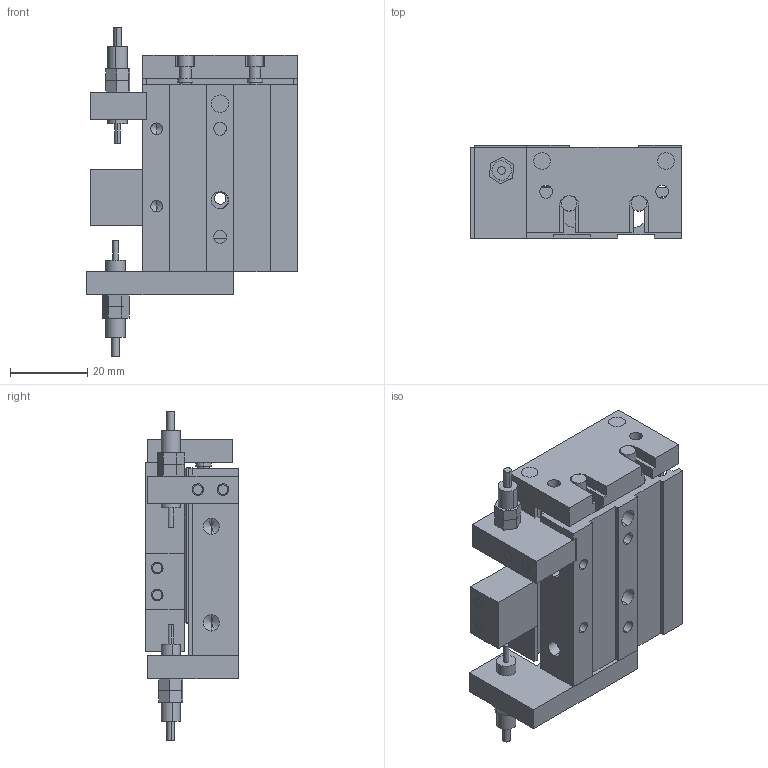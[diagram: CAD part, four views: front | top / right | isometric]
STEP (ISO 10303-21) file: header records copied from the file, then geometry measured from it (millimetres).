
FILE_DESCRIPTION (( 'STEP AP203' ), '1' );
FILE_NAME ('GDX 8-10.STEP', '2013-02-21T15:04:40', ( 'Conseil Régional Haute-Normandie' ), ( 'Conseil Régional Haute-Normandie' ), 'SwSTEP 2.0', 'SolidWorks 2010', '' );
FILE_SCHEMA (( 'CONFIG_CONTROL_DESIGN' ));
Length unit declared in the file: millimetre
Products named in the file (14): Pièce4 GDX 8-10_Default; Pièce8 GDX 8-10_Default; Pièce7 GDX 8-10_Default; GDX 8-10; Pièce3 GDX 8-10_Default; Pièce13 GDX 8-10_Default; Pièce1 GDX 8-10_Default; Pièce2 GDX 8-10_Default; Pièce5 GDX 8-10_Default; Pièce9 GDX 8-10_Default; Pièce 10 GDX 8-10_Default; Pièce11 GDX 8-10_Default; Pièce 12 GDX 8-10_Default; Pièce6 GDX 8-10_Default
Assembly tree (27 placements, depth 2):
  GDX 8-10
    Pièce1 GDX 8-10_Default
    Pièce3 GDX 8-10_Default
    Pièce5 GDX 8-10_Default  x4
    Pièce9 GDX 8-10_Default  x2
    Pièce6 GDX 8-10_Default  x8
    Pièce8 GDX 8-10_Default  x2
    Pièce13 GDX 8-10_Default  x2
    Pièce11 GDX 8-10_Default
    Pièce 10 GDX 8-10_Default
    Pièce 12 GDX 8-10_Default
    Pièce2 GDX 8-10_Default
    Pièce7 GDX 8-10_Default
    Pièce4 GDX 8-10_Default  x2
Bounding box: 54.5 x 24 x 85.24 mm (x, y, z)
Volume: 44225.7 mm3; surface area: 32094.4 mm2
Topology: 27 solids, 27 shells, 718 faces, 1812 edges, 1184 vertices
Faces by surface type: plane 381, cylinder 176, bspline 133, cone 28
Entity records: 30082 total; most frequent: CARTESIAN_POINT 14094, ORIENTED_EDGE 3088, DIRECTION 2510, EDGE_CURVE 1544, LINE 1034, VECTOR 1034, VERTEX_POINT 1024, AXIS2_PLACEMENT_3D 738
